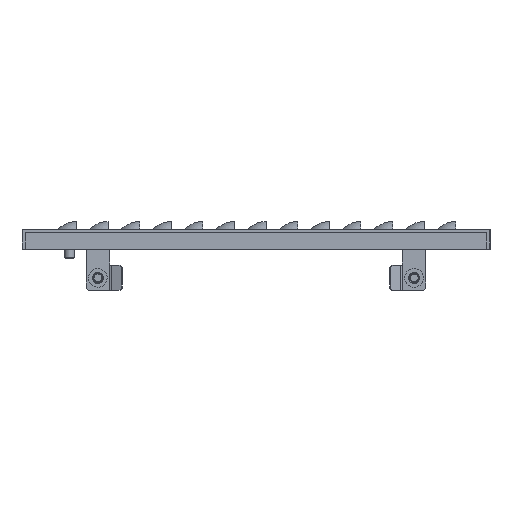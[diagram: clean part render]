
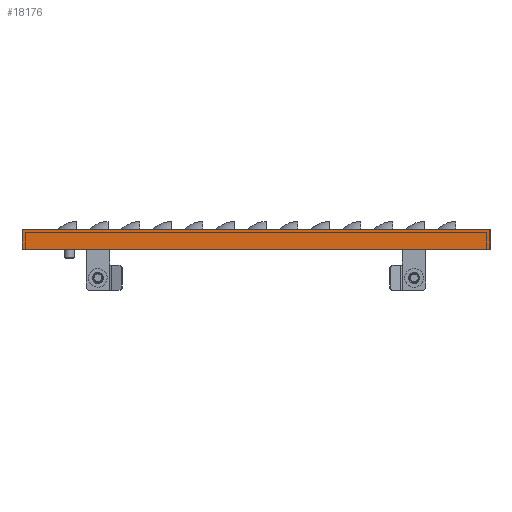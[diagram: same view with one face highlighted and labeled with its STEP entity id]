
A CAD part, left-side view. The second image highlights one B-rep face of the part: STEP entity #18176.
In plain terms, the highlighted planar face has unit normal (-1, 0, 0).
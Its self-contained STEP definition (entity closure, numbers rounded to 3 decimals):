
#1022 = CARTESIAN_POINT ( 'NONE',  ( -795., -148., 0. ) ) ;
#8459 = CARTESIAN_POINT ( 'NONE',  ( -795., -148., -2. ) ) ;
#9562 = VECTOR ( 'NONE', #54373, 1000. ) ;
#11553 = EDGE_LOOP ( 'NONE', ( #16020, #39863, #17050, #24767 ) ) ;
#12542 = CARTESIAN_POINT ( 'NONE',  ( -795., 0., 2.928 ) ) ;
#13905 = LINE ( 'NONE', #1022, #28102 ) ;
#15586 = VERTEX_POINT ( 'NONE', #53881 ) ;
#16020 = ORIENTED_EDGE ( 'NONE', *, *, #53039, .T. ) ;
#16727 = VERTEX_POINT ( 'NONE', #33736 ) ;
#17050 = ORIENTED_EDGE ( 'NONE', *, *, #47705, .T. ) ;
#17428 = CARTESIAN_POINT ( 'NONE',  ( -795., 0., -12.5 ) ) ;
#17570 = EDGE_CURVE ( 'NONE', #15586, #55703, #38111, .T. ) ;
#18176 = ADVANCED_FACE ( 'NONE', ( #34890 ), #22802, .F. ) ;
#18566 = VECTOR ( 'NONE', #38667, 1000. ) ;
#21683 = DIRECTION ( 'NONE',  ( 0., 0., -1. ) ) ;
#22802 = PLANE ( 'NONE',  #25034 ) ;
#24517 = CARTESIAN_POINT ( 'NONE',  ( -795., -296., 2.928 ) ) ;
#24767 = ORIENTED_EDGE ( 'NONE', *, *, #50240, .F. ) ;
#25034 = AXIS2_PLACEMENT_3D ( 'NONE', #8459, #44061, #21683 ) ;
#28102 = VECTOR ( 'NONE', #36021, 1000. ) ;
#33736 = CARTESIAN_POINT ( 'NONE',  ( -795., -296., -12.5 ) ) ;
#33957 = LINE ( 'NONE', #37699, #54206 ) ;
#34890 = FACE_OUTER_BOUND ( 'NONE', #11553, .T. ) ;
#36021 = DIRECTION ( 'NONE',  ( 0., 1., 0. ) ) ;
#37699 = CARTESIAN_POINT ( 'NONE',  ( -795., -148., -12.5 ) ) ;
#38111 = LINE ( 'NONE', #12542, #18566 ) ;
#38667 = DIRECTION ( 'NONE',  ( 0., 0., -1. ) ) ;
#39863 = ORIENTED_EDGE ( 'NONE', *, *, #17570, .T. ) ;
#44061 = DIRECTION ( 'NONE',  ( 1., 0., 0. ) ) ;
#47705 = EDGE_CURVE ( 'NONE', #55703, #16727, #33957, .T. ) ;
#49599 = CARTESIAN_POINT ( 'NONE',  ( -795., -296., 0. ) ) ;
#50240 = EDGE_CURVE ( 'NONE', #51537, #16727, #50925, .T. ) ;
#50925 = LINE ( 'NONE', #24517, #9562 ) ;
#51537 = VERTEX_POINT ( 'NONE', #49599 ) ;
#53039 = EDGE_CURVE ( 'NONE', #51537, #15586, #13905, .T. ) ;
#53881 = CARTESIAN_POINT ( 'NONE',  ( -795., 0., 0. ) ) ;
#54206 = VECTOR ( 'NONE', #55203, 1000. ) ;
#54373 = DIRECTION ( 'NONE',  ( 0., 0., -1. ) ) ;
#55203 = DIRECTION ( 'NONE',  ( 0., -1., 0. ) ) ;
#55703 = VERTEX_POINT ( 'NONE', #17428 ) ;
